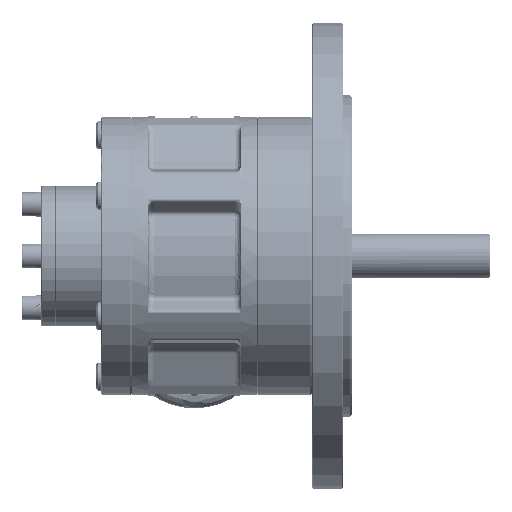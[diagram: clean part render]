
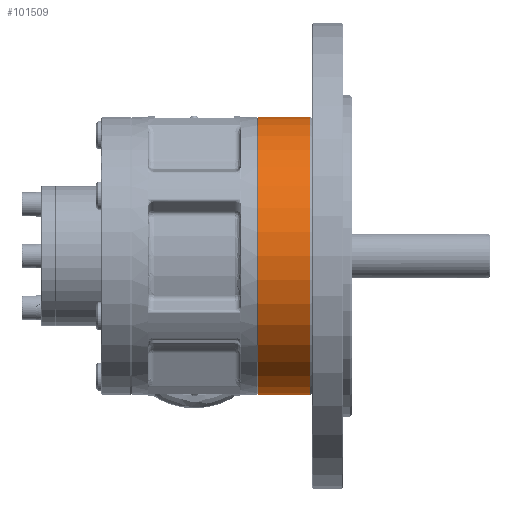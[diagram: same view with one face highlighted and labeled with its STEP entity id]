
A CAD part, front view. The second image highlights one B-rep face of the part: STEP entity #101509.
In plain terms, the highlighted cylindrical face has radius 49.5 mm (diameter 99 mm), a partial arc.
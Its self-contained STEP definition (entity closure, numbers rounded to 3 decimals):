
#3282 = CIRCLE ( 'NONE', #96763, 49.5 ) ;
#4228 = VERTEX_POINT ( 'NONE', #139287 ) ;
#5624 = DIRECTION ( 'NONE',  ( 0., 0., -1. ) ) ;
#9935 = DIRECTION ( 'NONE',  ( 1., 0., 0. ) ) ;
#10478 = DIRECTION ( 'NONE',  ( 1., 0., 0. ) ) ;
#14384 = CYLINDRICAL_SURFACE ( 'NONE', #128083, 49.5 ) ;
#23953 = ORIENTED_EDGE ( 'NONE', *, *, #38419, .F. ) ;
#25648 = EDGE_LOOP ( 'NONE', ( #23953, #48494, #66729, #69975 ) ) ;
#36508 = VERTEX_POINT ( 'NONE', #142537 ) ;
#38419 = EDGE_CURVE ( 'NONE', #36508, #156838, #99474, .T. ) ;
#39623 = VERTEX_POINT ( 'NONE', #44280 ) ;
#44280 = CARTESIAN_POINT ( 'NONE',  ( 41.3, -0.007, -49.502 ) ) ;
#48494 = ORIENTED_EDGE ( 'NONE', *, *, #86688, .T. ) ;
#48618 = CARTESIAN_POINT ( 'NONE',  ( 62.455, -0.007, -0.002 ) ) ;
#49723 = CARTESIAN_POINT ( 'NONE',  ( 62.455, -0.007, -49.502 ) ) ;
#59211 = VECTOR ( 'NONE', #9935, 1000. ) ;
#65755 = CARTESIAN_POINT ( 'NONE',  ( 41.3, -0.007, -0.002 ) ) ;
#66729 = ORIENTED_EDGE ( 'NONE', *, *, #79629, .T. ) ;
#69975 = ORIENTED_EDGE ( 'NONE', *, *, #131859, .F. ) ;
#75641 = LINE ( 'NONE', #49723, #59211 ) ;
#79629 = EDGE_CURVE ( 'NONE', #4228, #39623, #75641, .T. ) ;
#83660 = DIRECTION ( 'NONE',  ( 1., 0., 0. ) ) ;
#86688 = EDGE_CURVE ( 'NONE', #36508, #4228, #3282, .T. ) ;
#89244 = CARTESIAN_POINT ( 'NONE',  ( 62.455, -0.007, 49.498 ) ) ;
#96763 = AXIS2_PLACEMENT_3D ( 'NONE', #124112, #83660, #5624 ) ;
#98866 = CIRCLE ( 'NONE', #152715, 49.5 ) ;
#99474 = LINE ( 'NONE', #89244, #136081 ) ;
#101509 = ADVANCED_FACE ( 'NONE', ( #144932 ), #14384, .T. ) ;
#106891 = DIRECTION ( 'NONE',  ( 0., -0.001, -1. ) ) ;
#124112 = CARTESIAN_POINT ( 'NONE',  ( 22.8, -0.007, -0.002 ) ) ;
#128083 = AXIS2_PLACEMENT_3D ( 'NONE', #48618, #10478, #139853 ) ;
#131349 = DIRECTION ( 'NONE',  ( 1., 0., 0. ) ) ;
#131859 = EDGE_CURVE ( 'NONE', #156838, #39623, #98866, .T. ) ;
#134471 = CARTESIAN_POINT ( 'NONE',  ( 41.3, -0.007, 49.498 ) ) ;
#136081 = VECTOR ( 'NONE', #153097, 1000. ) ;
#139287 = CARTESIAN_POINT ( 'NONE',  ( 22.8, -0.007, -49.502 ) ) ;
#139853 = DIRECTION ( 'NONE',  ( 0., 0., -1. ) ) ;
#142537 = CARTESIAN_POINT ( 'NONE',  ( 22.8, -0.007, 49.498 ) ) ;
#144932 = FACE_OUTER_BOUND ( 'NONE', #25648, .T. ) ;
#152715 = AXIS2_PLACEMENT_3D ( 'NONE', #65755, #131349, #106891 ) ;
#153097 = DIRECTION ( 'NONE',  ( 1., 0., 0. ) ) ;
#156838 = VERTEX_POINT ( 'NONE', #134471 ) ;
